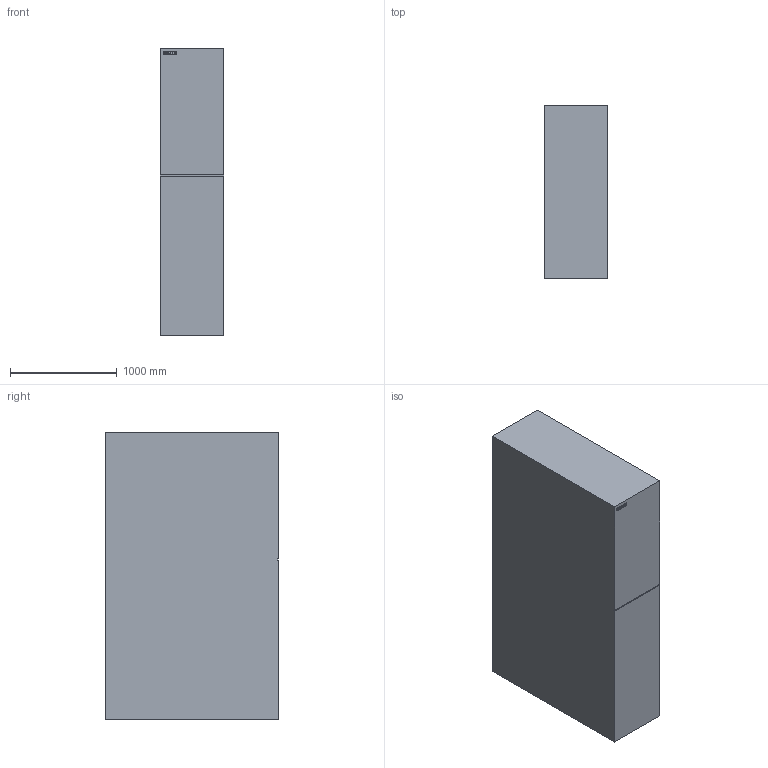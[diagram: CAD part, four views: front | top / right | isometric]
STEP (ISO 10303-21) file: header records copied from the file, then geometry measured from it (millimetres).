
FILE_DESCRIPTION(/* description */ (''),/* implementation_level */ '2;1');
FILE_NAME(/* name */ 'C:\ProgramData\Autodesk\RVT 2016\Libraries\Germany\__Siemens Entwicklung 8DA 8DB\DWG\Siemens_MV_switchgear_gas-insulated_8DA10_40_5kV - Single panel 600mm with cable cutout LV1200.stp',/* time_stamp */ '2018-03-14T11:55:29+01:00',/* author */ ('prange'),/* organization */ (''),/* preprocessor_version */ 'ST-DEVELOPER v16.1',/* originating_system */ 'AutoCAD Mechanical',/* authorisation */ '');
FILE_SCHEMA (('AUTOMOTIVE_DESIGN { 1 0 10303 214 3 1 1 }'));
Length unit declared in the file: millimetre
Products named in the file (2): 8DA - Basic - Test-568495-_3D_; Product
Assembly tree (1 placements, depth 2):
  Product
    8DA - Basic - Test-568495-_3D_
Bounding box: 600 x 1626.5 x 2700 mm (x, y, z)
Volume: 2626604250 mm3; surface area: 14018612.8 mm2
Topology: 2 solids, 9 shells, 28 faces, 191 edges, 195 vertices
Faces by surface type: plane 28
Entity records: 1858 total; most frequent: CARTESIAN_POINT 417, DIRECTION 253, ORIENTED_EDGE 219, LINE 191, VECTOR 191, EDGE_CURVE 171, VERTEX_POINT 155, AXIS2_PLACEMENT_3D 31
